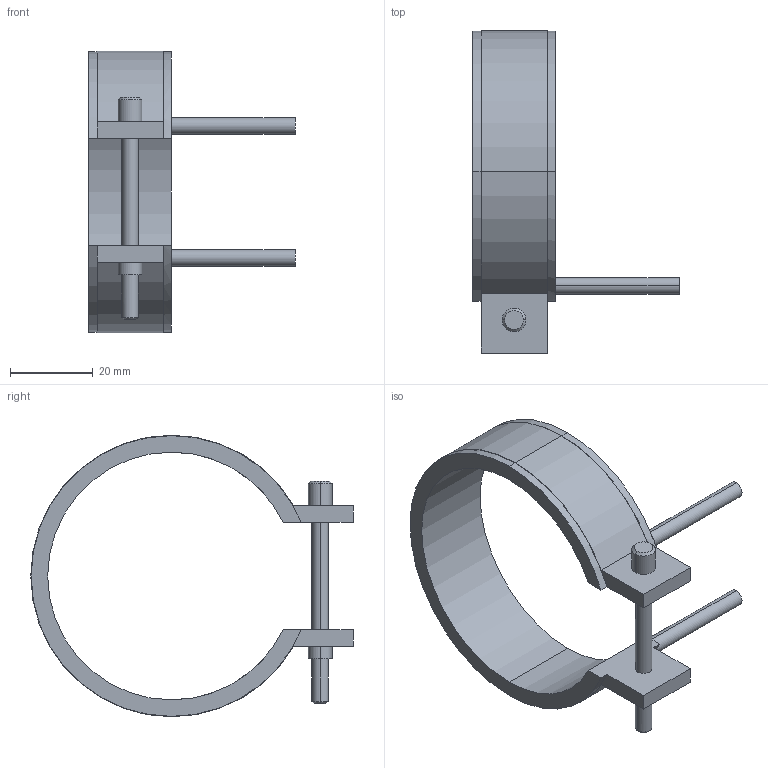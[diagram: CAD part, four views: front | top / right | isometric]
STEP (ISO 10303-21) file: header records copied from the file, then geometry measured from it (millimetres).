
FILE_DESCRIPTION(('CATIA V5 STEP Exchange'),'2;1');
FILE_NAME('C:\Users\Utente\Desktop\IO LAVORO\3D X SITO CF\X SITO\PLASTICA\RF2\14060020.stp','2021-04-01T09:32:37+00:00',('none'),('none'),'CATIA Version 5 Release 20 GA (IN-10)','CATIA V5 STEP AP203','none');
FILE_SCHEMA(('CONFIG_CONTROL_DESIGN'));
Length unit declared in the file: millimetre
Products named in the file (1): 14060020
Bounding box: 50 x 78.1 x 68.2 mm (x, y, z)
Volume: 17402.7 mm3; surface area: 10996.3 mm2
Topology: 1 solids, 1 shells, 45 faces, 116 edges, 76 vertices
Faces by surface type: cylinder 24, plane 17, cone 4
Entity records: 1406 total; most frequent: CARTESIAN_POINT 280, ORIENTED_EDGE 232, DIRECTION 196, EDGE_CURVE 116, AXIS2_PLACEMENT_3D 104, VERTEX_POINT 76, CIRCLE 62, VECTOR 52
